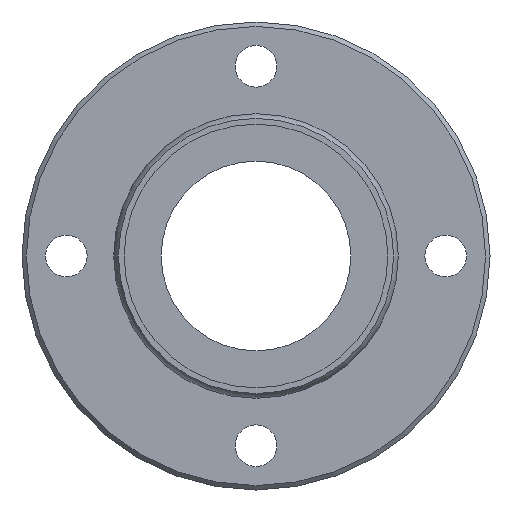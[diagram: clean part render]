
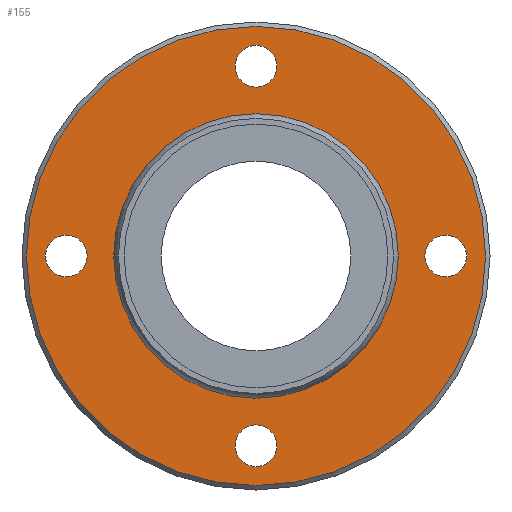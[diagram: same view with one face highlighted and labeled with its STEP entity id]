
A CAD part, left-side view. The second image highlights one B-rep face of the part: STEP entity #155.
In plain terms, the highlighted planar face has unit normal (-1, 0, 0).
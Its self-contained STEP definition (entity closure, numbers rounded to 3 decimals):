
#60=CARTESIAN_POINT('',(10.,0.,36.3));
#61=VERTEX_POINT('',#60);
#62=CARTESIAN_POINT('',(10.,0.0,0.0));
#63=DIRECTION('',(1.0,0.0,0.0));
#64=DIRECTION('',(0.0,0.0,-1.0));
#65=AXIS2_PLACEMENT_3D('',#62,#63,#64);
#66=CIRCLE('',#65,36.3);
#67=EDGE_CURVE('',#61,#61,#66,.T.);
#92=CARTESIAN_POINT('',(10.,0.0,29.563));
#93=DIRECTION('',(-1.0,0.0,0.0));
#94=DIRECTION('',(0.0,0.0,1.0));
#95=AXIS2_PLACEMENT_3D('',#92,#93,#94);
#96=PLANE('',#95);
#97=ORIENTED_EDGE('',*,*,#67,.F.);
#98=EDGE_LOOP('',(#97));
#99=FACE_OUTER_BOUND('',#98,.T.);
#100=CARTESIAN_POINT('',(10.,0.0,22.127));
#101=VERTEX_POINT('',#100);
#102=CARTESIAN_POINT('',(10.,0.0,0.0));
#103=DIRECTION('',(-1.0,0.0,0.0));
#104=DIRECTION('',(0.0,0.0,1.0));
#105=AXIS2_PLACEMENT_3D('',#102,#103,#104);
#106=CIRCLE('',#105,22.127);
#107=EDGE_CURVE('',#101,#101,#106,.T.);
#108=ORIENTED_EDGE('',*,*,#107,.F.);
#109=EDGE_LOOP('',(#108));
#110=FACE_BOUND('',#109,.T.);
#111=CARTESIAN_POINT('',(10.0,26.7,0.));
#112=VERTEX_POINT('',#111);
#113=CARTESIAN_POINT('',(10.0,30.0,0.));
#114=DIRECTION('',(1.0,0.0,0.0));
#115=DIRECTION('',(0.0,1.0,0.0));
#116=AXIS2_PLACEMENT_3D('',#113,#114,#115);
#117=CIRCLE('',#116,3.3);
#118=EDGE_CURVE('',#112,#112,#117,.T.);
#119=ORIENTED_EDGE('',*,*,#118,.T.);
#120=EDGE_LOOP('',(#119));
#121=FACE_BOUND('',#120,.T.);
#122=CARTESIAN_POINT('',(10.0,-33.3,0.));
#123=VERTEX_POINT('',#122);
#124=CARTESIAN_POINT('',(10.0,-30.0,0.0));
#125=DIRECTION('',(1.0,0.0,0.0));
#126=DIRECTION('',(0.0,1.0,0.0));
#127=AXIS2_PLACEMENT_3D('',#124,#125,#126);
#128=CIRCLE('',#127,3.3);
#129=EDGE_CURVE('',#123,#123,#128,.T.);
#130=ORIENTED_EDGE('',*,*,#129,.T.);
#131=EDGE_LOOP('',(#130));
#132=FACE_BOUND('',#131,.T.);
#133=CARTESIAN_POINT('',(10.0,-3.3,30.0));
#134=VERTEX_POINT('',#133);
#135=CARTESIAN_POINT('',(10.0,0.,30.0));
#136=DIRECTION('',(1.0,0.0,0.0));
#137=DIRECTION('',(0.0,1.0,0.0));
#138=AXIS2_PLACEMENT_3D('',#135,#136,#137);
#139=CIRCLE('',#138,3.3);
#140=EDGE_CURVE('',#134,#134,#139,.T.);
#141=ORIENTED_EDGE('',*,*,#140,.T.);
#142=EDGE_LOOP('',(#141));
#143=FACE_BOUND('',#142,.T.);
#144=CARTESIAN_POINT('',(10.0,-3.3,-30.0));
#145=VERTEX_POINT('',#144);
#146=CARTESIAN_POINT('',(10.0,0.,-30.0));
#147=DIRECTION('',(1.0,0.0,0.0));
#148=DIRECTION('',(0.0,1.0,0.0));
#149=AXIS2_PLACEMENT_3D('',#146,#147,#148);
#150=CIRCLE('',#149,3.3);
#151=EDGE_CURVE('',#145,#145,#150,.T.);
#152=ORIENTED_EDGE('',*,*,#151,.T.);
#153=EDGE_LOOP('',(#152));
#154=FACE_BOUND('',#153,.T.);
#155=ADVANCED_FACE('',(#99,#110,#121,#132,#143,#154),#96,.T.);
